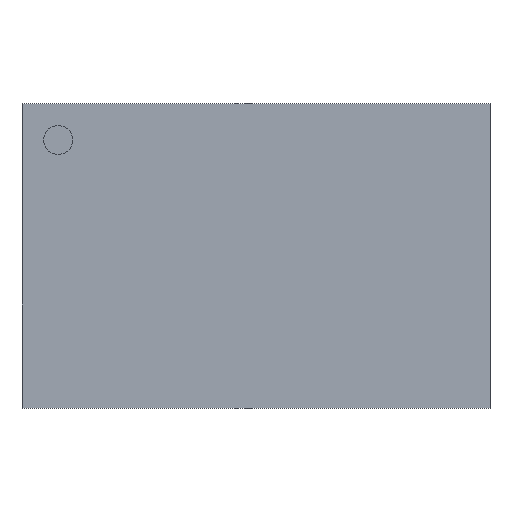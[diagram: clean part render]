
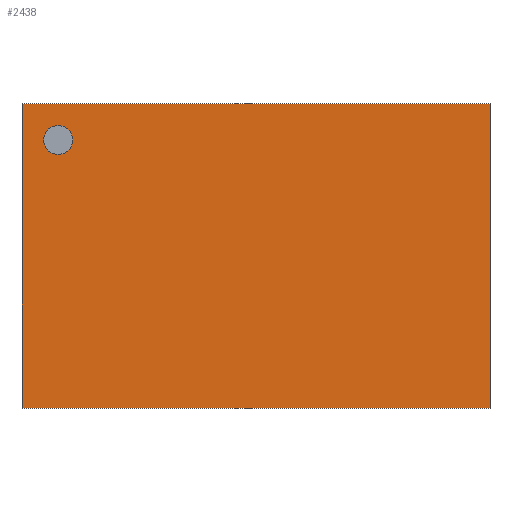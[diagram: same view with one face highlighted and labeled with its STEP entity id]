
A CAD part, top view. The second image highlights one B-rep face of the part: STEP entity #2438.
In plain terms, the highlighted planar face has unit normal (0, 0, 1).
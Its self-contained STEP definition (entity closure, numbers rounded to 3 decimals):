
#101 = PLANE('',#102);
#102 = AXIS2_PLACEMENT_3D('',#103,#104,#105);
#103 = CARTESIAN_POINT('',(1.62,1.055,0.21));
#104 = DIRECTION('',(-1.,0.,0.));
#105 = DIRECTION('',(0.,0.,1.));
#129 = PLANE('',#130);
#130 = AXIS2_PLACEMENT_3D('',#131,#132,#133);
#131 = CARTESIAN_POINT('',(1.62,1.055,0.21));
#132 = DIRECTION('',(0.,-1.,0.));
#133 = DIRECTION('',(0.,0.,1.));
#157 = PLANE('',#158);
#158 = AXIS2_PLACEMENT_3D('',#159,#160,#161);
#159 = CARTESIAN_POINT('',(-1.61,1.055,0.21));
#160 = DIRECTION('',(-1.,0.,0.));
#161 = DIRECTION('',(0.,0.,1.));
#183 = PLANE('',#184);
#184 = AXIS2_PLACEMENT_3D('',#185,#186,#187);
#185 = CARTESIAN_POINT('',(1.62,-1.045,0.21));
#186 = DIRECTION('',(0.,-1.,0.));
#187 = DIRECTION('',(0.,0.,1.));
#1256 = VERTEX_POINT('',#1257);
#1257 = CARTESIAN_POINT('',(1.62,1.055,0.55));
#1280 = VERTEX_POINT('',#1281);
#1281 = CARTESIAN_POINT('',(1.62,-1.045,0.55));
#1302 = EDGE_CURVE('',#1256,#1280,#1303,.T.);
#1303 = SURFACE_CURVE('',#1304,(#1308,#1315),.PCURVE_S1.);
#1304 = LINE('',#1305,#1306);
#1305 = CARTESIAN_POINT('',(1.62,1.055,0.55));
#1306 = VECTOR('',#1307,1.);
#1307 = DIRECTION('',(0.,-1.,0.));
#1308 = PCURVE('',#101,#1309);
#1309 = DEFINITIONAL_REPRESENTATION('',(#1310),#1314);
#1310 = LINE('',#1311,#1312);
#1311 = CARTESIAN_POINT('',(0.34,0.));
#1312 = VECTOR('',#1313,1.);
#1313 = DIRECTION('',(0.,-1.));
#1314 = ( GEOMETRIC_REPRESENTATION_CONTEXT(2) 
PARAMETRIC_REPRESENTATION_CONTEXT() REPRESENTATION_CONTEXT('2D SPACE',''
  ) );
#1315 = PCURVE('',#1316,#1321);
#1316 = PLANE('',#1317);
#1317 = AXIS2_PLACEMENT_3D('',#1318,#1319,#1320);
#1318 = CARTESIAN_POINT('',(1.62,1.055,0.55));
#1319 = DIRECTION('',(0.,0.,1.));
#1320 = DIRECTION('',(-1.,0.,0.));
#1321 = DEFINITIONAL_REPRESENTATION('',(#1322),#1326);
#1322 = LINE('',#1323,#1324);
#1323 = CARTESIAN_POINT('',(0.,0.));
#1324 = VECTOR('',#1325,1.);
#1325 = DIRECTION('',(0.,1.));
#1326 = ( GEOMETRIC_REPRESENTATION_CONTEXT(2) 
PARAMETRIC_REPRESENTATION_CONTEXT() REPRESENTATION_CONTEXT('2D SPACE',''
  ) );
#1333 = EDGE_CURVE('',#1280,#1334,#1336,.T.);
#1334 = VERTEX_POINT('',#1335);
#1335 = CARTESIAN_POINT('',(-1.61,-1.045,0.55));
#1336 = SURFACE_CURVE('',#1337,(#1341,#1348),.PCURVE_S1.);
#1337 = LINE('',#1338,#1339);
#1338 = CARTESIAN_POINT('',(1.62,-1.045,0.55));
#1339 = VECTOR('',#1340,1.);
#1340 = DIRECTION('',(-1.,0.,0.));
#1341 = PCURVE('',#183,#1342);
#1342 = DEFINITIONAL_REPRESENTATION('',(#1343),#1347);
#1343 = LINE('',#1344,#1345);
#1344 = CARTESIAN_POINT('',(0.34,0.));
#1345 = VECTOR('',#1346,1.);
#1346 = DIRECTION('',(0.,1.));
#1347 = ( GEOMETRIC_REPRESENTATION_CONTEXT(2) 
PARAMETRIC_REPRESENTATION_CONTEXT() REPRESENTATION_CONTEXT('2D SPACE',''
  ) );
#1348 = PCURVE('',#1316,#1349);
#1349 = DEFINITIONAL_REPRESENTATION('',(#1350),#1354);
#1350 = LINE('',#1351,#1352);
#1351 = CARTESIAN_POINT('',(0.,2.1));
#1352 = VECTOR('',#1353,1.);
#1353 = DIRECTION('',(1.,0.));
#1354 = ( GEOMETRIC_REPRESENTATION_CONTEXT(2) 
PARAMETRIC_REPRESENTATION_CONTEXT() REPRESENTATION_CONTEXT('2D SPACE',''
  ) );
#1382 = EDGE_CURVE('',#1256,#1383,#1385,.T.);
#1383 = VERTEX_POINT('',#1384);
#1384 = CARTESIAN_POINT('',(-1.61,1.055,0.55));
#1385 = SURFACE_CURVE('',#1386,(#1390,#1397),.PCURVE_S1.);
#1386 = LINE('',#1387,#1388);
#1387 = CARTESIAN_POINT('',(1.62,1.055,0.55));
#1388 = VECTOR('',#1389,1.);
#1389 = DIRECTION('',(-1.,0.,0.));
#1390 = PCURVE('',#129,#1391);
#1391 = DEFINITIONAL_REPRESENTATION('',(#1392),#1396);
#1392 = LINE('',#1393,#1394);
#1393 = CARTESIAN_POINT('',(0.34,0.));
#1394 = VECTOR('',#1395,1.);
#1395 = DIRECTION('',(0.,1.));
#1396 = ( GEOMETRIC_REPRESENTATION_CONTEXT(2) 
PARAMETRIC_REPRESENTATION_CONTEXT() REPRESENTATION_CONTEXT('2D SPACE',''
  ) );
#1397 = PCURVE('',#1316,#1398);
#1398 = DEFINITIONAL_REPRESENTATION('',(#1399),#1403);
#1399 = LINE('',#1400,#1401);
#1400 = CARTESIAN_POINT('',(0.,0.));
#1401 = VECTOR('',#1402,1.);
#1402 = DIRECTION('',(1.,0.));
#1403 = ( GEOMETRIC_REPRESENTATION_CONTEXT(2) 
PARAMETRIC_REPRESENTATION_CONTEXT() REPRESENTATION_CONTEXT('2D SPACE',''
  ) );
#1432 = EDGE_CURVE('',#1383,#1334,#1433,.T.);
#1433 = SURFACE_CURVE('',#1434,(#1438,#1445),.PCURVE_S1.);
#1434 = LINE('',#1435,#1436);
#1435 = CARTESIAN_POINT('',(-1.61,1.055,0.55));
#1436 = VECTOR('',#1437,1.);
#1437 = DIRECTION('',(0.,-1.,0.));
#1438 = PCURVE('',#157,#1439);
#1439 = DEFINITIONAL_REPRESENTATION('',(#1440),#1444);
#1440 = LINE('',#1441,#1442);
#1441 = CARTESIAN_POINT('',(0.34,0.));
#1442 = VECTOR('',#1443,1.);
#1443 = DIRECTION('',(0.,-1.));
#1444 = ( GEOMETRIC_REPRESENTATION_CONTEXT(2) 
PARAMETRIC_REPRESENTATION_CONTEXT() REPRESENTATION_CONTEXT('2D SPACE',''
  ) );
#1445 = PCURVE('',#1316,#1446);
#1446 = DEFINITIONAL_REPRESENTATION('',(#1447),#1451);
#1447 = LINE('',#1448,#1449);
#1448 = CARTESIAN_POINT('',(3.23,0.));
#1449 = VECTOR('',#1450,1.);
#1450 = DIRECTION('',(0.,1.));
#1451 = ( GEOMETRIC_REPRESENTATION_CONTEXT(2) 
PARAMETRIC_REPRESENTATION_CONTEXT() REPRESENTATION_CONTEXT('2D SPACE',''
  ) );
#2438 = ADVANCED_FACE('',(#2439,#2445),#1316,.T.);
#2439 = FACE_BOUND('',#2440,.T.);
#2440 = EDGE_LOOP('',(#2441,#2442,#2443,#2444));
#2441 = ORIENTED_EDGE('',*,*,#1302,.F.);
#2442 = ORIENTED_EDGE('',*,*,#1382,.T.);
#2443 = ORIENTED_EDGE('',*,*,#1432,.T.);
#2444 = ORIENTED_EDGE('',*,*,#1333,.F.);
#2445 = FACE_BOUND('',#2446,.T.);
#2446 = EDGE_LOOP('',(#2447));
#2447 = ORIENTED_EDGE('',*,*,#2448,.F.);
#2448 = EDGE_CURVE('',#2449,#2449,#2451,.T.);
#2449 = VERTEX_POINT('',#2450);
#2450 = CARTESIAN_POINT('',(-1.46,0.805,0.55));
#2451 = SURFACE_CURVE('',#2452,(#2457,#2464),.PCURVE_S1.);
#2452 = CIRCLE('',#2453,0.1);
#2453 = AXIS2_PLACEMENT_3D('',#2454,#2455,#2456);
#2454 = CARTESIAN_POINT('',(-1.36,0.805,0.55));
#2455 = DIRECTION('',(0.,0.,1.));
#2456 = DIRECTION('',(-1.,0.,0.));
#2457 = PCURVE('',#1316,#2458);
#2458 = DEFINITIONAL_REPRESENTATION('',(#2459),#2463);
#2459 = CIRCLE('',#2460,0.1);
#2460 = AXIS2_PLACEMENT_2D('',#2461,#2462);
#2461 = CARTESIAN_POINT('',(2.98,0.25));
#2462 = DIRECTION('',(1.,0.));
#2463 = ( GEOMETRIC_REPRESENTATION_CONTEXT(2) 
PARAMETRIC_REPRESENTATION_CONTEXT() REPRESENTATION_CONTEXT('2D SPACE',''
  ) );
#2464 = PCURVE('',#2465,#2470);
#2465 = CYLINDRICAL_SURFACE('',#2466,0.1);
#2466 = AXIS2_PLACEMENT_3D('',#2467,#2468,#2469);
#2467 = CARTESIAN_POINT('',(-1.36,0.805,0.55));
#2468 = DIRECTION('',(0.,0.,1.));
#2469 = DIRECTION('',(-1.,0.,0.));
#2470 = DEFINITIONAL_REPRESENTATION('',(#2471),#2475);
#2471 = LINE('',#2472,#2473);
#2472 = CARTESIAN_POINT('',(0.,0.));
#2473 = VECTOR('',#2474,1.);
#2474 = DIRECTION('',(1.,0.));
#2475 = ( GEOMETRIC_REPRESENTATION_CONTEXT(2) 
PARAMETRIC_REPRESENTATION_CONTEXT() REPRESENTATION_CONTEXT('2D SPACE',''
  ) );
